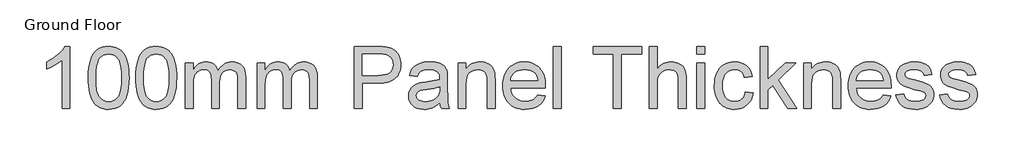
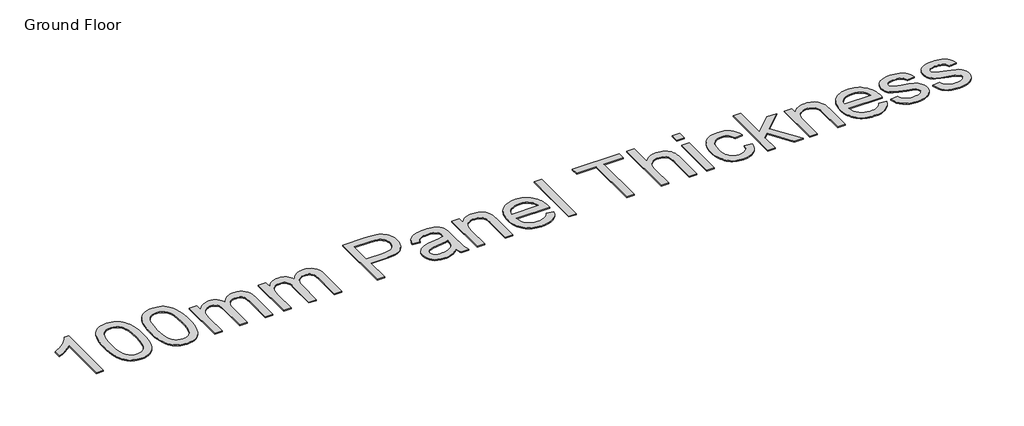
# One storey, part 14 of 14: 1 proxy.
"""IFC4 building model written with IfcOpenShell, lengths in millimetres."""

from ifc_helpers import new_model, si_unit, origin, origin_with_axes, place, context, project, spatial, polyline, outline, extrude, element, save

model = new_model("IFC4")

# Units and contexts
model_context = context("Model", 3, world=origin())
ifc_project = project(units=[si_unit("LENGTHUNIT", "METRE", prefix="MILLI")], contexts=[model_context])

# Site, building, storey
site = spatial("IfcSite", under=ifc_project)
building = spatial("IfcBuilding", under=site)
storey = spatial("IfcBuildingStorey", under=building, Name="Ground Floor", Elevation=0.0)

# Proxy
placement = place(None, origin())
element("IfcBuildingElementProxy", 1, Name="1200mm Arial", ObjectType="1200mm Arial", at=placement, inside=storey, context=model_context, shape_type="SweptSolid", body=[
    extrude(outline(polyline([(70889.2693651, 8102.4454456), (70742.3602742, 8102.4454456), (70742.3602742, 9018.3318092), (70681.0285981, 8968.7284712), (70603.1983424, 8919.1968661), (70521.4945072, 8875.906028), (70448.5420924, 8845.0249911), (70448.5420924, 8983.8999911), (70508.1611442, 9013.7946999), (70563.9245498, 9046.6663263), (70615.832309, 9082.5148703), (70663.8844219, 9121.340332), (70706.6462295, 9161.3493874), (70742.6830725, 9200.7487126), (70771.9949511, 9239.5383078), (70794.5818651, 9277.7181729), (70889.2693651, 9277.7181729), (70889.2693651, 8102.4454456)])), origin_with_axes(), (0.0, 0.0, 1.0), 20.0),
    extrude(outline(polyline([(71238.178456, 8680.6130592), (71240.8774084, 8779.4341707), (71248.9742657, 8868.7327325), (71262.4690278, 8948.5087446), (71281.3616947, 9018.762207), (71305.5715668, 9080.0669832), (71335.0179447, 9132.9969371), (71369.7008282, 9177.5520685), (71409.6202174, 9213.7323774), (71454.9106116, 9241.7261629), (71505.70651, 9261.721724), (71562.0079127, 9273.7190607), (71623.8148197, 9277.7181729), (71670.2619077, 9275.3509854), (71714.3418083, 9268.2494229), (71756.0545214, 9256.4134854), (71795.4000469, 9239.8431729), (71831.4279234, 9218.8164506), (71863.187689, 9193.6112837), (71890.6793438, 9164.2276722), (71913.9028878, 9130.6656161), (71934.0239816, 9093.0596146), (71952.2082856, 9051.5441672), (71982.7665242, 8956.7849342), (71994.4410626, 8901.0573952), (72002.7800185, 8836.452903), (72007.7833921, 8762.9714577), (72009.4511833, 8680.6130592), (72006.7791307, 8582.4196111), (71998.7629731, 8493.5693803), (71985.4027103, 8414.0623668), (71966.6983424, 8343.8985706), (71942.6767692, 8282.5668945), (71913.3648907, 8229.5562411), (71878.7627067, 8184.8666104), (71838.8702174, 8148.4980024), (71793.5260235, 8120.3159179), (71742.5687259, 8100.1858575), (71685.9983246, 8088.1078213), (71623.8148197, 8084.0818092), (71582.209706, 8085.8303), (71542.9000469, 8091.0757723), (71505.8858424, 8099.8182261), (71471.1670924, 8112.0576615), (71438.7437969, 8127.7940784), (71408.615956, 8147.0274768), (71380.7835697, 8169.7578568), (71355.2466378, 8195.9852183), (71327.8087827, 8237.5141157), (71304.0293083, 8284.485751), (71283.9082145, 8336.9001242), (71267.4455015, 8394.7572354), (71254.6411691, 8458.0570844), (71245.4952174, 8526.7996715), (71240.0076464, 8600.9849964), (71238.178456, 8680.6130592)]), holes=[polyline([(71385.0875469, 8680.8999911), (71389.3915242, 8553.1884321), (71402.303456, 8449.812278), (71411.9874049, 8407.2499777), (71423.8233424, 8370.7715287), (71437.8112685, 8340.3769309), (71453.9511833, 8316.0661842), (71490.3915242, 8278.8457474), (71530.8489106, 8252.2597212), (71575.3233424, 8236.3081054), (71623.8148197, 8230.9909001), (71672.3062969, 8236.3260386), (71716.7807288, 8252.3314541), (71757.2381151, 8279.0071466), (71793.678456, 8316.3531161), (71809.8183708, 8340.7221457), (71823.8062969, 8371.1481267), (71835.6422344, 8407.6310591), (71845.3261833, 8450.1709428), (71858.2381151, 8553.4215642), (71862.5420924, 8680.8999911), (71858.381581, 8805.2311345), (71845.9000469, 8906.7870649), (71836.5388964, 8949.0243252), (71825.0974901, 8985.5677822), (71811.5758282, 9016.417436), (71795.9739106, 9041.5732865), (71760.1432998, 9080.613947), (71719.2196492, 9108.5001331), (71673.2029589, 9125.2318447), (71622.0932288, 9130.809082), (71573.8528168, 9125.8953746), (71530.131581, 9111.1542524), (71490.9295214, 9086.5857155), (71456.2466378, 9052.1897638), (71439.5687259, 9024.3573774), (71425.1145356, 8991.2167524), (71412.8840668, 8952.7678888), (71402.8773197, 8909.0107865), (71389.5349901, 8805.5718661), (71385.0875469, 8680.8999911)])]), origin_with_axes(), (0.0, 0.0, 1.0), 20.0),
    extrude(outline(polyline([(72137.9966378, 8680.6130592), (72140.6955903, 8779.4341707), (72148.7924475, 8868.7327325), (72162.2872096, 8948.5087446), (72181.1798765, 9018.762207), (72205.3897486, 9080.0669832), (72234.8361265, 9132.9969371), (72269.51901, 9177.5520685), (72309.4383992, 9213.7323774), (72354.7287934, 9241.7261629), (72405.5246918, 9261.721724), (72461.8260945, 9273.7190607), (72523.6330015, 9277.7181729), (72570.0800895, 9275.3509854), (72614.1599901, 9268.2494229), (72655.8727032, 9256.4134854), (72695.2182288, 9239.8431729), (72731.2461052, 9218.8164506), (72763.0058708, 9193.6112837), (72790.4975256, 9164.2276722), (72813.7210697, 9130.6656161), (72833.8421634, 9093.0596146), (72852.0264674, 9051.5441672), (72882.584706, 8956.7849342), (72894.2592444, 8901.0573952), (72902.5982003, 8836.452903), (72907.6015739, 8762.9714577), (72909.2693651, 8680.6130592), (72906.5973126, 8582.4196111), (72898.5811549, 8493.5693803), (72885.2208921, 8414.0623668), (72866.5165242, 8343.8985706), (72842.4949511, 8282.5668945), (72813.1830725, 8229.5562411), (72778.5808886, 8184.8666104), (72738.6883992, 8148.4980024), (72693.3442053, 8120.3159179), (72642.3869077, 8100.1858575), (72585.8165065, 8088.1078213), (72523.6330015, 8084.0818092), (72482.0278878, 8085.8303), (72442.7182288, 8091.0757723), (72405.7040242, 8099.8182261), (72370.9852742, 8112.0576615), (72338.5619788, 8127.7940784), (72308.4341378, 8147.0274768), (72280.6017515, 8169.7578568), (72255.0648197, 8195.9852183), (72227.6269645, 8237.5141157), (72203.8474901, 8284.485751), (72183.7263964, 8336.9001242), (72167.2636833, 8394.7572354), (72154.4593509, 8458.0570844), (72145.3133992, 8526.7996715), (72139.8258282, 8600.9849964), (72137.9966378, 8680.6130592)]), holes=[polyline([(72284.9057288, 8680.8999911), (72289.209706, 8553.1884321), (72302.1216378, 8449.812278), (72311.8055867, 8407.2499777), (72323.6415242, 8370.7715287), (72337.6294503, 8340.3769309), (72353.7693651, 8316.0661842), (72390.209706, 8278.8457474), (72430.6670924, 8252.2597212), (72475.1415242, 8236.3081054), (72523.6330015, 8230.9909001), (72572.1244788, 8236.3260386), (72616.5989106, 8252.3314541), (72657.0562969, 8279.0071466), (72693.4966378, 8316.3531161), (72709.6365526, 8340.7221457), (72723.6244788, 8371.1481267), (72735.4604163, 8407.6310591), (72745.1443651, 8450.1709428), (72758.0562969, 8553.4215642), (72762.3602742, 8680.8999911), (72758.1997628, 8805.2311345), (72745.7182288, 8906.7870649), (72736.3570782, 8949.0243252), (72724.9156719, 8985.5677822), (72711.39401, 9016.417436), (72695.7920924, 9041.5732865), (72659.9614816, 9080.613947), (72619.037831, 9108.5001331), (72573.0211407, 9125.2318447), (72521.9114106, 9130.809082), (72473.6709986, 9125.8953746), (72429.9497628, 9111.1542524), (72390.7477032, 9086.5857155), (72356.0648197, 9052.1897638), (72339.3869077, 9024.3573774), (72324.9327174, 8991.2167524), (72312.7022486, 8952.7678888), (72302.6955015, 8909.0107865), (72289.3531719, 8805.5718661), (72284.9057288, 8680.8999911)])]), origin_with_axes(), (0.0, 0.0, 1.0), 20.0),
    extrude(outline(polyline([(73074.5420924, 8102.4454456), (73074.5420924, 8965.5363547), (73221.4511833, 8965.5363547), (73221.4511833, 8823.5051047), (73241.9668083, 8857.8920898), (73265.6386833, 8888.7462268), (73292.4668083, 8916.0675159), (73322.4511833, 8939.855957), (73355.1076109, 8959.1252219), (73389.9518935, 8972.8889825), (73426.9840313, 8981.1472389), (73466.2040242, 8983.8999911), (73509.0823978, 8981.0934392), (73547.9078594, 8972.6737837), (73582.6804092, 8958.6410244), (73613.4000469, 8938.9951615), (73639.9771066, 8914.2921253), (73662.3219219, 8885.0878462), (73680.434493, 8851.3823242), (73694.3148197, 8813.1755592), (73720.1476499, 8853.1890979), (73747.8634702, 8887.8674982), (73777.4622806, 8917.2107599), (73808.944081, 8941.2188831), (73842.3088715, 8959.8918678), (73877.556652, 8973.2297141), (73914.6874226, 8981.2324218), (73953.7011833, 8983.8999911), (74012.5132394, 8979.4615145), (74064.1340668, 8966.1460848), (74108.5636655, 8943.953702), (74145.8020356, 8912.8843661), (74175.2394468, 8872.5794122), (74196.2661691, 8822.6801757), (74208.8822025, 8763.1866565), (74213.0875469, 8694.0988547), (74213.0875469, 8102.4454456), (74066.178456, 8102.4454456), (74066.178456, 8630.9738547), (74062.7711407, 8704.2490678), (74052.5491947, 8753.637207), (74044.3537046, 8771.4538795), (74033.3964958, 8787.459295), (74019.6775682, 8801.6534534), (74003.1969219, 8814.0363547), (73984.5553204, 8824.0789683), (73964.353527, 8831.2522638), (73919.2693651, 8836.9909001), (73877.6373516, 8833.3145862), (73839.681652, 8822.2856445), (73805.4022664, 8803.9040749), (73774.7991947, 8778.1698774), (73749.6298942, 8744.3298561), (73731.6518225, 8701.6308149), (73720.8649795, 8650.0727538), (73717.2693651, 8589.6556729), (73717.2693651, 8102.4454456), (73570.3602742, 8102.4454456), (73570.3602742, 8647.3289683), (73568.2351854, 8691.8392666), (73561.8599191, 8730.3957297), (73551.2344752, 8762.9983575), (73536.3588538, 8789.6471501), (73516.6412579, 8810.3600408), (73491.4898907, 8825.1549626), (73460.9047522, 8834.0319158), (73424.8858424, 8836.9909001), (73396.0312614, 8835.0182439), (73368.2885413, 8829.1002751), (73341.6576819, 8819.2369939), (73316.1386833, 8805.4284001), (73292.897206, 8787.8179598), (73273.0989106, 8766.5491388), (73256.7437969, 8741.6219371), (73243.8318651, 8713.0363547), (73234.0403168, 8679.2680663), (73227.0463538, 8638.7927467), (73221.4511833, 8537.7210138), (73221.4511833, 8102.4454456), (73074.5420924, 8102.4454456)])), origin_with_axes(), (0.0, 0.0, 1.0), 20.0),
    extrude(outline(polyline([(74433.4511833, 8102.4454456), (74433.4511833, 8965.5363547), (74580.3602742, 8965.5363547), (74580.3602742, 8823.5051047), (74600.8758992, 8857.8920898), (74624.5477742, 8888.7462268), (74651.3758992, 8916.0675159), (74681.3602742, 8939.855957), (74714.0167018, 8959.1252219), (74748.8609844, 8972.8889825), (74785.8931222, 8981.1472389), (74825.1131151, 8983.8999911), (74867.9914887, 8981.0934392), (74906.8169503, 8972.6737837), (74941.5895001, 8958.6410244), (74972.3091378, 8938.9951615), (74998.8861975, 8914.2921253), (75021.2310128, 8885.0878462), (75039.3435839, 8851.3823242), (75053.2239106, 8813.1755592), (75079.0567408, 8853.1890979), (75106.7725611, 8887.8674982), (75136.3713715, 8917.2107599), (75167.8531719, 8941.2188831), (75201.2179624, 8959.8918678), (75236.465743, 8973.2297141), (75273.5965136, 8981.2324218), (75312.6102742, 8983.8999911), (75371.4223303, 8979.4615145), (75423.0431577, 8966.1460848), (75467.4727565, 8943.953702), (75504.7111265, 8912.8843661), (75534.1485377, 8872.5794122), (75555.17526, 8822.6801757), (75567.7912934, 8763.1866565), (75571.9966378, 8694.0988547), (75571.9966378, 8102.4454456), (75425.0875469, 8102.4454456), (75425.0875469, 8630.9738547), (75421.6802316, 8704.2490678), (75411.4582856, 8753.637207), (75403.2627955, 8771.4538795), (75392.3055867, 8787.459295), (75378.5866592, 8801.6534534), (75362.1060128, 8814.0363547), (75343.4644113, 8824.0789683), (75323.262618, 8831.2522638), (75278.178456, 8836.9909001), (75236.5464425, 8833.3145862), (75198.590743, 8822.2856445), (75164.3113573, 8803.9040749), (75133.7082856, 8778.1698774), (75108.5389851, 8744.3298561), (75090.5609134, 8701.6308149), (75079.7740704, 8650.0727538), (75076.178456, 8589.6556729), (75076.178456, 8102.4454456), (74929.2693651, 8102.4454456), (74929.2693651, 8647.3289683), (74927.1442763, 8691.8392666), (74920.76901, 8730.3957297), (74910.1435661, 8762.9983575), (74895.2679447, 8789.6471501), (74875.5503488, 8810.3600408), (74850.3989816, 8825.1549626), (74819.8138431, 8834.0319158), (74783.7949333, 8836.9909001), (74754.9403523, 8835.0182439), (74727.1976322, 8829.1002751), (74700.5667728, 8819.2369939), (74675.0477742, 8805.4284001), (74651.8062969, 8787.8179598), (74632.0080015, 8766.5491388), (74615.6528878, 8741.6219371), (74602.740956, 8713.0363547), (74592.9494077, 8679.2680663), (74585.9554447, 8638.7927467), (74580.3602742, 8537.7210138), (74580.3602742, 8102.4454456), (74433.4511833, 8102.4454456)])), origin_with_axes(), (0.0, 0.0, 1.0), 20.0),
    extrude(outline(polyline([(76269.8148197, 8102.4454456), (76269.8148197, 9277.7181729), (76705.3773197, 9277.7181729), (76806.8077174, 9274.9205876), (76880.9795924, 9266.527832), (76921.8584099, 9257.7136452), (76959.2761123, 9245.6176757), (76993.2326996, 9230.2399236), (77023.7281719, 9211.5803888), (77051.0853275, 9189.2535067), (77075.6269645, 9162.8737126), (77097.3530832, 9132.4410067), (77116.2636833, 9097.9553888), (77131.5786691, 9060.5556196), (77142.5179447, 9021.3804598), (77149.08151, 8980.4299094), (77151.2693651, 8937.7039683), (77145.360363, 8865.5585493), (77137.9741103, 8831.6512783), (77127.6333566, 8799.1876331), (77114.3381018, 8768.1676136), (77098.0883459, 8738.5912197), (77078.884089, 8710.4584516), (77056.725331, 8683.7693092), (77030.7109267, 8659.4249378), (76999.9397309, 8638.3264825), (76964.4117435, 8620.4739435), (76924.1269645, 8605.8673206), (76879.0853941, 8594.5066139), (76829.287032, 8586.3918234), (76774.7318784, 8581.5229492), (76715.4199333, 8579.8999911), (76416.7239106, 8579.8999911), (76416.7239106, 8102.4454456), (76269.8148197, 8102.4454456)]), holes=[polyline([(76416.7239106, 8726.809082), (76724.0278878, 8726.809082), (76794.6848481, 8730.1805308), (76854.2949333, 8740.2948774), (76902.8581435, 8757.1521217), (76940.3744788, 8780.7522638), (76968.3682643, 8810.4676402), (76988.3638253, 8845.6705876), (77000.361162, 8886.3611061), (77004.3602742, 8932.5391956), (77002.0020533, 8966.8275479), (76994.9273907, 8998.5335138), (76983.1362863, 9027.6570933), (76966.6287401, 9054.1982865), (76946.2834809, 9077.2962979), (76922.9792373, 9096.090332), (76896.7160093, 9110.5803888), (76867.4937969, 9120.7664683), (76810.8247628, 9128.2984286), (76720.584706, 9130.809082), (76416.7239106, 9130.809082), (76416.7239106, 8726.809082)])]), origin_with_axes(), (0.0, 0.0, 1.0), 20.0),
    extrude(outline(polyline([(77885.8148197, 8212.6272638), (77850.9795036, 8179.9349697), (77815.6241236, 8152.4433149), (77779.7486797, 8130.1522993), (77743.3531719, 8113.0619229), (77706.0251357, 8100.3831232), (77667.3521066, 8091.3268376), (77627.3340846, 8085.8930663), (77585.9710697, 8084.0818092), (77520.5595817, 8088.4395862), (77463.200118, 8101.5129172), (77413.8926783, 8123.3018021), (77372.6372628, 8153.8062411), (77340.0615349, 8191.0894442), (77316.7931577, 8233.2146217), (77302.8321315, 8280.1817737), (77298.178456, 8331.9909001), (77299.9359134, 8363.1409357), (77305.2082856, 8392.8921786), (77313.9955725, 8421.2446288), (77326.2977742, 8448.1982865), (77341.4603275, 8473.1613547), (77358.8286691, 8495.5420365), (77378.4027991, 8515.340332), (77400.1827174, 8532.5562411), (77448.7817941, 8560.5320933), (77503.0477742, 8580.7607865), (77555.9149617, 8592.0228604), (77630.1585697, 8602.8545365), (77780.3673765, 8626.0960138), (77838.3634702, 8639.2231445), (77884.9540242, 8653.3545365), (77885.8148197, 8686.0647638), (77883.286233, 8721.6801757), (77875.7004731, 8751.6286842), (77863.0575398, 8775.9102893), (77845.3574333, 8794.5249911), (77814.7633282, 8813.1038263), (77777.4980583, 8826.3744229), (77733.5616236, 8834.3367808), (77682.9540242, 8836.9909001), (77635.897206, 8835.2244761), (77595.4398197, 8829.9252041), (77561.5818651, 8821.0930841), (77534.3233424, 8808.7281161), (77511.9247273, 8791.8619051), (77492.6464958, 8769.5260564), (77476.4886478, 8741.7205699), (77463.4511833, 8708.4454456), (77316.5420924, 8726.809082), (77327.7234667, 8769.1315251), (77342.0431577, 8807.1499911), (77359.5011655, 8840.8644797), (77380.0974901, 8870.2749911), (77404.7198268, 8895.973322), (77434.2558708, 8918.5512695), (77468.7056222, 8938.0088334), (77508.069081, 8954.3460138), (77551.5482181, 8967.2758788), (77598.3450043, 8976.5114967), (77648.4594397, 8982.0528675), (77701.8915242, 8983.8999911), (77754.1220817, 8982.2680663), (77801.2057998, 8977.3722922), (77843.1426783, 8969.2126686), (77879.9327174, 8957.7891956), (77911.880782, 8943.8999023), (77939.2917373, 8928.3428178), (77962.1655832, 8911.117942), (77980.5023197, 8892.2252751), (77995.3689745, 8871.1985528), (78007.8325753, 8847.5715109), (78025.5506151, 8792.5164683), (78030.9305867, 8741.7295365), (78032.7239106, 8663.9710138), (78032.7239106, 8481.1954456), (78034.5889674, 8321.984153), (78040.1841378, 8225.9695933), (78051.2310128, 8162.8804598), (78069.4511833, 8102.4454456), (77922.5420924, 8102.4454456), (77909.4866947, 8126.9781161), (77899.0136833, 8153.5193092), (77885.8148197, 8212.6272638)]), holes=[polyline([(77885.8148197, 8506.4454456), (77841.4121208, 8493.7307794), (77787.1102742, 8481.9845081), (77648.8091378, 8461.3971501), (77572.5928736, 8450.1350763), (77522.4156719, 8437.5818092), (77489.5261123, 8421.2984286), (77465.1727742, 8398.8460138), (77450.1088538, 8371.9461558), (77445.0875469, 8342.3204456), (77447.8223658, 8319.4914328), (77456.0268225, 8298.6350763), (77469.700917, 8279.751376), (77488.8446492, 8262.840332), (77513.2786868, 8248.9062055), (77542.8236975, 8238.9532581), (77577.4796812, 8232.9814896), (77617.2466378, 8230.9909001), (77657.8474901, 8233.1877219), (77696.1528878, 8239.7781871), (77732.162831, 8250.7622957), (77765.8773197, 8266.1400479), (77796.2920924, 8284.6381835), (77822.4028878, 8304.9834428), (77844.209706, 8327.1758256), (77861.7125469, 8351.215332), (77871.8806932, 8372.7352183), (77879.1436549, 8398.8460138), (77883.5014319, 8429.5477183), (77884.9540242, 8464.840332), (77885.8148197, 8506.4454456)])]), origin_with_axes(), (0.0, 0.0, 1.0), 20.0),
    extrude(outline(polyline([(78234.7239106, 8102.4454456), (78234.7239106, 8965.5363547), (78381.6330015, 8965.5363547), (78381.6330015, 8845.0249911), (78405.8697735, 8877.5738192), (78432.6709986, 8905.7828036), (78462.0366769, 8929.6519442), (78493.9668083, 8949.1812411), (78528.4613928, 8964.3706942), (78565.5204305, 8975.2203036), (78605.1439212, 8981.7300692), (78647.3318651, 8983.8999911), (78684.3012366, 8982.1515003), (78719.7462827, 8976.906028), (78753.6670036, 8968.1635742), (78786.0633992, 8955.9241388), (78815.7070427, 8940.8422851), (78841.3695072, 8923.5725763), (78863.0507927, 8904.1150124), (78880.7508992, 8882.4695933), (78907.4714248, 8832.7227893), (78924.7949333, 8774.4397638), (78930.6053026, 8718.7032581), (78932.5420924, 8632.4085138), (78932.5420924, 8102.4454456), (78785.6330015, 8102.4454456), (78785.6330015, 8612.6102183), (78781.4007572, 8688.5754172), (78776.1104518, 8718.3266601), (78768.7040242, 8742.590332), (78758.6165775, 8763.0252574), (78745.2832145, 8781.2902609), (78728.7039354, 8797.3853426), (78708.8787401, 8811.3105024), (78686.4890917, 8822.5456764), (78662.2164532, 8830.5708007), (78636.0608246, 8835.3858753), (78608.022206, 8836.9909001), (78563.4132749, 8833.3863192), (78521.978527, 8822.5725763), (78483.7179624, 8804.5496715), (78448.631581, 8779.3176047), (78432.9287889, 8763.280806), (78419.3197025, 8744.0070578), (78407.8043216, 8721.49636), (78398.3826464, 8695.7487126), (78385.8204127, 8634.5425692), (78381.6330015, 8560.3886274), (78381.6330015, 8102.4454456), (78234.7239106, 8102.4454456)])), origin_with_axes(), (0.0, 0.0, 1.0), 20.0),
    extrude(outline(polyline([(79738.8205015, 8359.5363547), (79882.8602742, 8341.1727183), (79860.7754908, 8283.4814896), (79830.9614816, 8232.6407581), (79793.4182465, 8188.6505237), (79748.1457856, 8151.5107865), (79695.610363, 8122.010609), (79636.278243, 8100.9390536), (79570.1494255, 8088.2961203), (79497.2239106, 8084.0818092), (79450.4047078, 8085.8997913), (79406.0692586, 8091.3537375), (79364.2175629, 8100.4436478), (79324.8496208, 8113.1695223), (79287.9654322, 8129.5313609), (79253.5649972, 8149.5291636), (79221.6483158, 8173.1629305), (79192.2153878, 8200.4326615), (79165.7862774, 8230.9841752), (79142.8810484, 8264.4632901), (79123.4997007, 8300.8700061), (79107.6422344, 8340.2043234), (79095.3086496, 8382.4662419), (79086.4989461, 8427.6557617), (79081.213124, 8475.7728826), (79079.4511833, 8526.8176047), (79081.2310572, 8579.5996093), (79086.570679, 8629.34193), (79095.4700487, 8676.0445667), (79107.9291663, 8719.7075195), (79123.9480317, 8760.3307883), (79143.5266449, 8797.9143732), (79166.6650061, 8832.4582741), (79193.3631151, 8863.9624911), (79222.8991592, 8892.0728426), (79254.5513253, 8916.4351473), (79288.3196137, 8937.0494051), (79324.2040242, 8953.9156161), (79362.2045569, 8967.0337801), (79402.3212117, 8976.4038973), (79444.5539887, 8982.0259676), (79488.9028878, 8983.8999911), (79531.8014363, 8982.0304509), (79572.6959454, 8976.4218305), (79611.586415, 8967.0741299), (79648.4728452, 8953.987349), (79683.355236, 8937.1614879), (79716.2335874, 8916.5965465), (79747.1078994, 8892.2925248), (79775.9781719, 8864.2494229), (79802.104659, 8832.8169389), (79824.7476144, 8798.3447709), (79843.9070382, 8760.832919), (79859.5829305, 8720.2813831), (79871.7752911, 8676.6901633), (79880.4841201, 8630.0592595), (79885.7094175, 8580.3886718), (79887.4511833, 8527.6784001), (79886.5903878, 8488.0818092), (79226.3602742, 8488.0818092), (79234.8695959, 8429.4580521), (79251.7896066, 8378.1151899), (79277.1203062, 8334.0532226), (79310.8616947, 8297.2721501), (79351.1487153, 8268.2741033), (79396.1163111, 8247.5612126), (79445.7644823, 8235.1334783), (79500.0932288, 8230.9909001), (79540.7299475, 8232.9097567), (79578.2821492, 8238.6663263), (79612.7498339, 8248.260609), (79644.1330015, 8261.6926047), (79672.431652, 8279.3209783), (79697.6457856, 8301.5043945), (79719.775402, 8328.2428533), (79738.8205015, 8359.5363547)]), holes=[polyline([(79226.3602742, 8634.9909001), (79740.5420924, 8634.9909001), (79732.9921989, 8676.5601473), (79720.672064, 8712.605957), (79703.5816876, 8743.1283291), (79681.7210697, 8768.1272638), (79641.6582145, 8798.2551047), (79596.0719219, 8819.7749911), (79544.9621918, 8832.6869229), (79488.3290242, 8836.9909001), (79436.6723303, 8833.5566849), (79389.3016805, 8823.2540393), (79346.2170746, 8806.0829634), (79307.4185128, 8782.043457), (79274.8607181, 8752.247381), (79250.4984134, 8717.8065962), (79234.3315988, 8678.7211026), (79226.3602742, 8634.9909001)])]), origin_with_axes(), (0.0, 0.0, 1.0), 20.0),
    extrude(outline(polyline([(80034.3602742, 8102.4454456), (80034.3602742, 9277.7181729), (80181.2693651, 9277.7181729), (80181.2693651, 8102.4454456), (80034.3602742, 8102.4454456)])), origin_with_axes(), (0.0, 0.0, 1.0), 20.0),
    extrude(outline(polyline([(81172.9057288, 8102.4454456), (81172.9057288, 9130.809082), (80787.2693651, 9130.809082), (80787.2693651, 9277.7181729), (81705.4511833, 9277.7181729), (81705.4511833, 9130.809082), (81319.8148197, 9130.809082), (81319.8148197, 8102.4454456), (81172.9057288, 8102.4454456)])), origin_with_axes(), (0.0, 0.0, 1.0), 20.0),
    extrude(outline(polyline([(81852.3602742, 8102.4454456), (81852.3602742, 9277.7181729), (81999.2693651, 9277.7181729), (81999.2693651, 8845.5988547), (82025.4205104, 8878.0131835), (82053.2304802, 8906.1056018), (82082.6992746, 8929.8761097), (82113.8268935, 8949.324707), (82146.6133371, 8964.4513938), (82181.0586052, 8975.25617), (82217.1626979, 8981.7390358), (82254.9256151, 8983.8999911), (82300.8526393, 8981.5417702), (82343.6592799, 8974.4671075), (82383.345537, 8962.6760031), (82419.9114106, 8946.168457), (82452.4243722, 8925.5003994), (82479.9518935, 8901.2277609), (82502.4939745, 8873.3505415), (82520.0506151, 8841.8687411), (82533.2315455, 8804.8366033), (82542.6464958, 8760.3083717), (82548.295466, 8708.2840465), (82550.178456, 8648.7636274), (82550.178456, 8102.4454456), (82403.2693651, 8102.4454456), (82403.2693651, 8633.5562411), (82400.3462472, 8683.1595791), (82391.5768935, 8725.5178888), (82376.961304, 8760.63117), (82356.4994788, 8788.4994229), (82330.6756151, 8809.7144442), (82299.9739106, 8824.8680308), (82264.3943651, 8833.9601828), (82223.9369788, 8836.9909001), (82192.4193118, 8834.9465109), (82161.8521066, 8828.8133433), (82132.235363, 8818.5913973), (82103.569081, 8804.2806729), (82077.4044859, 8786.4729669), (82055.2928026, 8765.7600763), (82037.2340313, 8742.142001), (82023.2281719, 8715.6187411), (82012.746194, 8684.9708362), (82005.2590668, 8648.9788263), (82000.7667905, 8607.6427112), (81999.2693651, 8560.9624911), (81999.2693651, 8102.4454456), (81852.3602742, 8102.4454456)])), origin_with_axes(), (0.0, 0.0, 1.0), 20.0),
    extrude(outline(polyline([(82752.178456, 9130.809082), (82752.178456, 9277.7181729), (82899.0875469, 9277.7181729), (82899.0875469, 9130.809082), (82752.178456, 9130.809082)])), origin_with_axes(), (0.0, 0.0, 1.0), 20.0),
    extrude(outline(polyline([(82752.178456, 8102.4454456), (82752.178456, 8965.5363547), (82899.0875469, 8965.5363547), (82899.0875469, 8102.4454456), (82752.178456, 8102.4454456)])), origin_with_axes(), (0.0, 0.0, 1.0), 20.0),
    extrude(outline(polyline([(83670.3602742, 8414.6272638), (83817.2693651, 8396.2636274), (83801.2908495, 8326.9426935), (83776.3098481, 8265.6020507), (83742.3263609, 8212.2416992), (83699.3403878, 8166.8616388), (83649.1631861, 8130.6454634), (83593.6060128, 8104.7767666), (83532.668868, 8089.2555486), (83466.3517515, 8084.0818092), (83424.089833, 8085.8863414), (83383.9574866, 8091.2999378), (83345.9547122, 8100.3225985), (83310.08151, 8112.9543234), (83276.3378799, 8129.1951127), (83244.7238218, 8149.0449662), (83215.2393358, 8172.503884), (83187.8844219, 8199.5718661), (83163.2374271, 8230.011297), (83141.8766982, 8263.5845614), (83123.8022353, 8300.2916592), (83109.0140384, 8340.1325905), (83097.5121075, 8383.1073552), (83089.2964425, 8429.2159534), (83084.3670436, 8478.4583851), (83082.7239106, 8530.8346501), (83085.5304624, 8598.3801935), (83093.950118, 8661.5679598), (83107.9828772, 8720.3979492), (83127.6287401, 8774.8701615), (83153.022206, 8823.8906693), (83184.2977742, 8866.365545), (83221.4554447, 8902.2947886), (83264.4952174, 8931.6784001), (83311.471336, 8954.5253462), (83360.4380441, 8970.8445933), (83411.3953417, 8980.6361416), (83464.3432288, 8983.8999911), (83529.5215846, 8979.4166814), (83588.4771066, 8965.9667524), (83641.2097948, 8943.5502041), (83687.7196492, 8912.1670365), (83727.2176073, 8872.5345791), (83758.9146066, 8825.3701615), (83782.8106471, 8770.6737837), (83798.9057288, 8708.4454456), (83651.9966378, 8690.0818092), (83640.5283317, 8724.3970614), (83625.3478452, 8754.1752041), (83606.4551783, 8779.4162375), (83583.850331, 8800.1201615), (83558.107167, 8816.2511097), (83529.7995498, 8827.7732155), (83498.9274795, 8834.686479), (83465.490956, 8836.9909001), (83415.5737863, 8832.4537908), (83370.5523907, 8818.8424626), (83330.4267692, 8796.1569158), (83295.1969219, 8764.3971501), (83279.8303781, 8744.9306196), (83266.5127067, 8722.827903), (83246.0239816, 8670.7139115), (83233.7307465, 8608.0551757), (83229.6330015, 8534.8516956), (83233.6410803, 8460.5453213), (83245.6653168, 8397.1602893), (83265.705711, 8344.6965997), (83278.7319672, 8322.5602583), (83293.7622628, 8303.1542524), (83328.2927138, 8271.5827858), (83367.7548055, 8249.0317382), (83412.1485377, 8235.5011097), (83461.4739106, 8230.9909001), (83501.222934, 8233.8064186), (83537.5467089, 8242.252974), (83570.4452351, 8256.3305663), (83599.9185128, 8276.0391956), (83625.141613, 8301.5940607), (83645.2896066, 8333.2103604), (83660.3624937, 8370.8880947), (83670.3602742, 8414.6272638)])), origin_with_axes(), (0.0, 0.0, 1.0), 20.0),
    extrude(outline(polyline([(83945.8148197, 8102.4454456), (83945.8148197, 9277.7181729), (84092.7239106, 9277.7181729), (84092.7239106, 8646.1812411), (84422.1216378, 8965.5363547), (84625.2693651, 8965.5363547), (84291.8545924, 8642.1641956), (84643.6330015, 8102.4454456), (84472.0477742, 8102.4454456), (84186.5506151, 8540.0164683), (84092.7239106, 8449.059082), (84092.7239106, 8102.4454456), (83945.8148197, 8102.4454456)])), origin_with_axes(), (0.0, 0.0, 1.0), 20.0),
    extrude(outline(polyline([(84772.178456, 8102.4454456), (84772.178456, 8965.5363547), (84919.0875469, 8965.5363547), (84919.0875469, 8845.0249911), (84943.324319, 8877.5738192), (84970.1255441, 8905.7828036), (84999.4912224, 8929.6519442), (85031.4213538, 8949.1812411), (85065.9159383, 8964.3706942), (85102.9749759, 8975.2203036), (85142.5984667, 8981.7300692), (85184.7864106, 8983.8999911), (85221.755782, 8982.1515003), (85257.2008282, 8976.906028), (85291.1215491, 8968.1635742), (85323.5179447, 8955.9241388), (85353.1615881, 8940.8422851), (85378.8240526, 8923.5725763), (85400.5053381, 8904.1150124), (85418.2054447, 8882.4695933), (85444.9259702, 8832.7227893), (85462.2494788, 8774.4397638), (85468.0598481, 8718.7032581), (85469.9966378, 8632.4085138), (85469.9966378, 8102.4454456), (85323.0875469, 8102.4454456), (85323.0875469, 8612.6102183), (85318.8553026, 8688.5754172), (85313.5649972, 8718.3266601), (85306.1585697, 8742.590332), (85296.0711229, 8763.0252574), (85282.73776, 8781.2902609), (85266.1584809, 8797.3853426), (85246.3332856, 8811.3105024), (85223.9436371, 8822.5456764), (85199.6709986, 8830.5708007), (85173.5153701, 8835.3858753), (85145.4767515, 8836.9909001), (85100.8678204, 8833.3863192), (85059.4330725, 8822.5725763), (85021.1725079, 8804.5496715), (84986.0861265, 8779.3176047), (84970.3833344, 8763.280806), (84956.7742479, 8744.0070578), (84945.2588671, 8721.49636), (84935.8371918, 8695.7487126), (84923.2749582, 8634.5425692), (84919.0875469, 8560.3886274), (84919.0875469, 8102.4454456), (84772.178456, 8102.4454456)])), origin_with_axes(), (0.0, 0.0, 1.0), 20.0),
    extrude(outline(polyline([(86276.2750469, 8359.5363547), (86420.3148197, 8341.1727183), (86398.2300363, 8283.4814896), (86368.416027, 8232.6407581), (86330.872792, 8188.6505237), (86285.600331, 8151.5107865), (86233.0649084, 8122.010609), (86173.7327884, 8100.9390536), (86107.6039709, 8088.2961203), (86034.678456, 8084.0818092), (85987.8592533, 8085.8997913), (85943.523804, 8091.3537375), (85901.6721084, 8100.4436478), (85862.3041663, 8113.1695223), (85825.4199777, 8129.5313609), (85791.0195427, 8149.5291636), (85759.1028612, 8173.1629305), (85729.6699333, 8200.4326615), (85703.2408229, 8230.9841752), (85680.3355938, 8264.4632901), (85660.9542462, 8300.8700061), (85645.0967799, 8340.2043234), (85632.763195, 8382.4662419), (85623.9534915, 8427.6557617), (85618.6676694, 8475.7728826), (85616.9057288, 8526.8176047), (85618.6856027, 8579.5996093), (85624.0252245, 8629.34193), (85632.9245942, 8676.0445667), (85645.3837117, 8719.7075195), (85661.4025771, 8760.3307883), (85680.9811904, 8797.9143732), (85704.1195516, 8832.4582741), (85730.8176606, 8863.9624911), (85760.3537046, 8892.0728426), (85792.0058708, 8916.4351473), (85825.7741592, 8937.0494051), (85861.6585697, 8953.9156161), (85899.6591023, 8967.0337801), (85939.7757572, 8976.4038973), (85982.0085342, 8982.0259676), (86026.3574333, 8983.8999911), (86069.2559818, 8982.0304509), (86110.1504908, 8976.4218305), (86149.0409605, 8967.0741299), (86185.9273907, 8953.987349), (86220.8097815, 8937.1614879), (86253.6881329, 8916.5965465), (86284.5624448, 8892.2925248), (86313.4327174, 8864.2494229), (86339.5592044, 8832.8169389), (86362.2021599, 8798.3447709), (86381.3615837, 8760.832919), (86397.0374759, 8720.2813831), (86409.2298365, 8676.6901633), (86417.9386655, 8630.0592595), (86423.163963, 8580.3886718), (86424.9057288, 8527.6784001), (86424.0449333, 8488.0818092), (85763.8148197, 8488.0818092), (85772.3241414, 8429.4580521), (85789.244152, 8378.1151899), (85814.5748516, 8334.0532226), (85848.3162401, 8297.2721501), (85888.6032607, 8268.2741033), (85933.5708566, 8247.5612126), (85983.2190278, 8235.1334783), (86037.5477742, 8230.9909001), (86078.184493, 8232.9097567), (86115.7366947, 8238.6663263), (86150.2043793, 8248.260609), (86181.5875469, 8261.6926047), (86209.8861975, 8279.3209783), (86235.100331, 8301.5043945), (86257.2299475, 8328.2428533), (86276.2750469, 8359.5363547)]), holes=[polyline([(85763.8148197, 8634.9909001), (86277.9966378, 8634.9909001), (86270.4467444, 8676.5601473), (86258.1266094, 8712.605957), (86241.036233, 8743.1283291), (86219.1756151, 8768.1272638), (86179.11276, 8798.2551047), (86133.5264674, 8819.7749911), (86082.4167373, 8832.6869229), (86025.7835697, 8836.9909001), (85974.1268758, 8833.5566849), (85926.7562259, 8823.2540393), (85883.6716201, 8806.0829634), (85844.8730583, 8782.043457), (85812.3152636, 8752.247381), (85787.9529589, 8717.8065962), (85771.7861442, 8678.7211026), (85763.8148197, 8634.9909001)])]), origin_with_axes(), (0.0, 0.0, 1.0), 20.0),
    extrude(outline(polyline([(86516.7239106, 8359.5363547), (86663.6330015, 8377.8999911), (86672.5099546, 8344.4007013), (86686.8027458, 8315.0619229), (86706.5113751, 8289.8836558), (86731.6358424, 8268.8659001), (86762.2478807, 8252.2955876), (86798.4192231, 8240.4596501), (86840.1498694, 8233.3580876), (86887.4398197, 8230.9909001), (86934.6759702, 8233.160822), (86975.3844219, 8239.6705876), (87009.5651748, 8250.520197), (87037.2182288, 8265.7096501), (87058.5587827, 8283.8222212), (87073.8020356, 8303.4411842), (87082.9479873, 8324.5665393), (87085.9966378, 8347.1982865), (87082.930054, 8367.0324484), (87073.7303026, 8384.6428888), (87058.3973836, 8400.0296075), (87036.9312969, 8413.1926047), (86981.9121208, 8431.8431729), (86885.7182288, 8455.0846501), (86751.6493367, 8493.8563121), (86664.4937969, 8526.9610706), (86634.5721883, 8543.558283), (86608.5062259, 8563.0786132), (86586.2959099, 8585.5220614), (86567.9412401, 8610.8886274), (86553.5677493, 8638.4161487), (86543.3009702, 8667.3424626), (86537.1409028, 8697.6675692), (86535.0875469, 8729.3914683), (86536.7374049, 8758.3984818), (86541.6869788, 8786.3115678), (86549.9362685, 8813.1307261), (86561.4852742, 8838.855957), (86575.8856648, 8862.9671963), (86592.6891094, 8884.9443803), (86611.895608, 8904.7875088), (86633.5051606, 8922.496582), (86674.0701464, 8946.1325905), (86726.9014674, 8965.9667524), (86787.9820782, 8979.4166814), (86853.2949333, 8983.8999911), (86902.6651393, 8982.0977006), (86948.9149617, 8976.6908291), (86992.0444006, 8967.6793767), (87032.053456, 8955.0633433), (87067.9916663, 8939.3717595), (87098.9085697, 8921.1336558), (87124.8041663, 8900.3490322), (87145.678456, 8877.0178888), (87162.6074333, 8850.3242631), (87176.6670924, 8819.4521928), (87187.8574333, 8784.4016778), (87196.178456, 8745.1727183), (87049.2693651, 8726.809082), (87042.2664354, 8751.350719), (87030.7263964, 8773.0409712), (87014.6492479, 8791.8798384), (86994.0349901, 8807.8673206), (86968.7939567, 8820.6088867), (86938.8364816, 8829.7100053), (86904.1625647, 8835.1706764), (86864.772206, 8836.9909001), (86819.078314, 8835.251376), (86780.4142515, 8830.0328036), (86748.7800185, 8821.3351828), (86724.1756151, 8809.1585138), (86705.7223126, 8794.668457), (86692.5413822, 8779.0306729), (86684.6328239, 8762.2451615), (86681.9966378, 8744.3119229), (86686.3723481, 8721.7160422), (86699.4994788, 8701.559082), (86721.9518935, 8683.5541104), (86754.303456, 8669.1357865), (86880.8403878, 8637.8602183), (87010.6411691, 8599.4830876), (87096.4696492, 8568.7096501), (87126.6692231, 8553.6995294), (87153.4256151, 8535.6407581), (87176.7388253, 8514.5333362), (87196.6088538, 8490.3772638), (87212.4887366, 8463.1366743), (87223.83151, 8432.7757013), (87230.6371741, 8399.2943447), (87232.9057288, 8362.6926047), (87230.2426428, 8325.9294655), (87222.253385, 8290.2423206), (87208.9379553, 8255.63117), (87190.2963538, 8222.0960138), (87166.6334454, 8190.9728781), (87138.2540952, 8163.5977893), (87105.1583033, 8139.9707474), (87067.3460697, 8120.0917524), (87025.8485555, 8104.3374023), (86981.6969219, 8093.084295), (86934.8911691, 8086.3324307), (86885.4312969, 8084.0818092), (86806.3636478, 8088.421653), (86737.3027458, 8101.4411842), (86678.248591, 8123.140403), (86629.2011833, 8153.5193092), (86589.1383282, 8192.4344371), (86557.037831, 8239.7423206), (86532.8996918, 8295.4429598), (86516.7239106, 8359.5363547)])), origin_with_axes(), (0.0, 0.0, 1.0), 20.0),
    extrude(outline(polyline([(87343.0875469, 8359.5363547), (87489.9966378, 8377.8999911), (87498.873591, 8344.4007013), (87513.1663822, 8315.0619229), (87532.8750114, 8289.8836558), (87557.9994788, 8268.8659001), (87588.6115171, 8252.2955876), (87624.7828594, 8240.4596501), (87666.5135057, 8233.3580876), (87713.803456, 8230.9909001), (87761.0396066, 8233.160822), (87801.7480583, 8239.6705876), (87835.9288111, 8250.520197), (87863.5818651, 8265.7096501), (87884.9224191, 8283.8222212), (87900.1656719, 8303.4411842), (87909.3116236, 8324.5665393), (87912.3602742, 8347.1982865), (87909.2936904, 8367.0324484), (87900.093939, 8384.6428888), (87884.7610199, 8400.0296075), (87863.2949333, 8413.1926047), (87808.2757572, 8431.8431729), (87712.0818651, 8455.0846501), (87578.0129731, 8493.8563121), (87490.8574333, 8526.9610706), (87460.9358246, 8543.558283), (87434.8698623, 8563.0786132), (87412.6595462, 8585.5220614), (87394.3048765, 8610.8886274), (87379.9313857, 8638.4161487), (87369.6646066, 8667.3424626), (87363.5045391, 8697.6675692), (87361.4511833, 8729.3914683), (87363.1010413, 8758.3984818), (87368.0506151, 8786.3115678), (87376.2999049, 8813.1307261), (87387.8489106, 8838.855957), (87402.2493012, 8862.9671963), (87419.0527458, 8884.9443803), (87438.2592444, 8904.7875088), (87459.8687969, 8922.496582), (87500.4337827, 8946.1325905), (87553.2651038, 8965.9667524), (87614.3457145, 8979.4166814), (87679.6585697, 8983.8999911), (87729.0287756, 8982.0977006), (87775.2785981, 8976.6908291), (87818.408037, 8967.6793767), (87858.4170924, 8955.0633433), (87894.3553026, 8939.3717595), (87925.272206, 8921.1336558), (87951.1678026, 8900.3490322), (87972.0420924, 8877.0178888), (87988.9710697, 8850.3242631), (88003.0307288, 8819.4521928), (88014.2210697, 8784.4016778), (88022.5420924, 8745.1727183), (87875.6330015, 8726.809082), (87868.6300718, 8751.350719), (87857.0900327, 8773.0409712), (87841.0128843, 8791.8798384), (87820.3986265, 8807.8673206), (87795.1575931, 8820.6088867), (87765.200118, 8829.7100053), (87730.5262011, 8835.1706764), (87691.1358424, 8836.9909001), (87645.4419503, 8835.251376), (87606.7778878, 8830.0328036), (87575.1436549, 8821.3351828), (87550.5392515, 8809.1585138), (87532.0859489, 8794.668457), (87518.9050185, 8779.0306729), (87510.9964603, 8762.2451615), (87508.3602742, 8744.3119229), (87512.7359844, 8721.7160422), (87525.8631151, 8701.559082), (87548.3155299, 8683.5541104), (87580.6670924, 8669.1357865), (87707.2040242, 8637.8602183), (87837.0048055, 8599.4830876), (87922.8332856, 8568.7096501), (87953.0328594, 8553.6995294), (87979.7892515, 8535.6407581), (88003.1024617, 8514.5333362), (88022.9724901, 8490.3772638), (88038.8523729, 8463.1366743), (88050.1951464, 8432.7757013), (88057.0008104, 8399.2943447), (88059.2693651, 8362.6926047), (88056.6062792, 8325.9294655), (88048.6170214, 8290.2423206), (88035.3015917, 8255.63117), (88016.6599901, 8222.0960138), (87992.9970817, 8190.9728781), (87964.6177316, 8163.5977893), (87931.5219397, 8139.9707474), (87893.709706, 8120.0917524), (87852.2121918, 8104.3374023), (87808.0605583, 8093.084295), (87761.2548055, 8086.3324307), (87711.7949333, 8084.0818092), (87632.7272842, 8088.421653), (87563.6663822, 8101.4411842), (87504.6122273, 8123.140403), (87455.5648197, 8153.5193092), (87415.5019645, 8192.4344371), (87383.4014674, 8239.7423206), (87359.2633282, 8295.4429598), (87343.0875469, 8359.5363547)])), origin_with_axes(), (0.0, 0.0, 1.0), 20.0),
])

save(model, "model.ifc")
